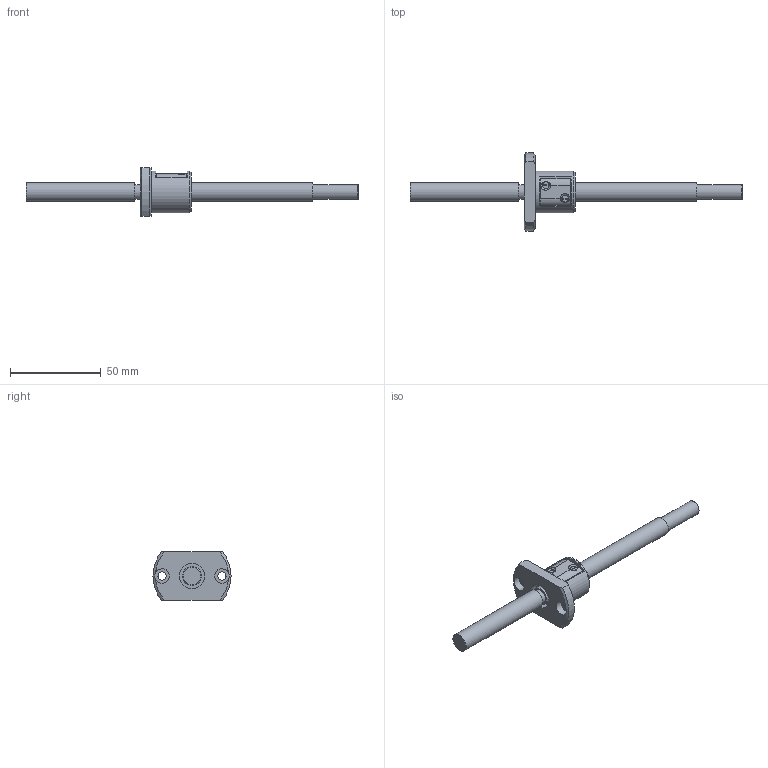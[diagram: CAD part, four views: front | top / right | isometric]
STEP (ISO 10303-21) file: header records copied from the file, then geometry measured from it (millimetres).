
FILE_DESCRIPTION(/* description */ ('STEP AP203'),/* implementation_level */ '2;1');
FILE_NAME(/* name */ 'MBF1002-3.7RRGT+183LC3A(0)',/* time_stamp */ '2024-07-15T08:03:22+02:00',/* author */ ('License CC BY-ND 4.0'),/* organization */ ('CADENAS'),/* preprocessor_version */ 'ST-DEVELOPER v19.3',/* originating_system */ 'PARTsolutions',/* authorisation */ ' ');
FILE_SCHEMA (('CONFIG_CONTROL_DESIGN'));
Length unit declared in the file: millimetre
Products named in the file (3): MBF1002-3.7RRGT+183LC3A(0); MBF1002-3.7RRGT+183LC3A(.0)_shaft; MBF 1002-3.7_nut
Assembly tree (2 placements, depth 2):
  MBF1002-3.7RRGT+183LC3A(0)
    MBF1002-3.7RRGT+183LC3A(.0)_shaft
    MBF 1002-3.7_nut
Bounding box: 183 x 43 x 27 mm (x, y, z)
Volume: 25878.1 mm3; surface area: 11386.6 mm2
Topology: 2 solids, 2 shells, 67 faces, 160 edges, 105 vertices
Faces by surface type: plane 34, cylinder 20, cone 13
Full cylindrical faces by diameter (mm): 4.5 x2, 8 x2, 8.2 x2, 10 x2, 10.3 x1, 14 x2, 23 x1
Entity records: 1959 total; most frequent: CARTESIAN_POINT 416, DIRECTION 304, ORIENTED_EDGE 278, EDGE_CURVE 139, AXIS2_PLACEMENT_3D 127, VERTEX_POINT 101, EDGE_LOOP 98, FACE_BOUND 98
